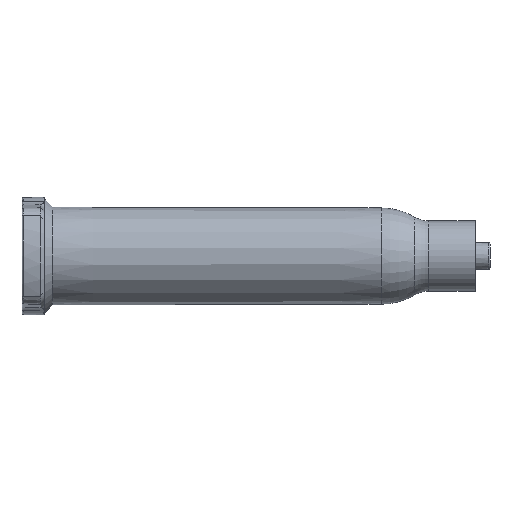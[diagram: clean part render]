
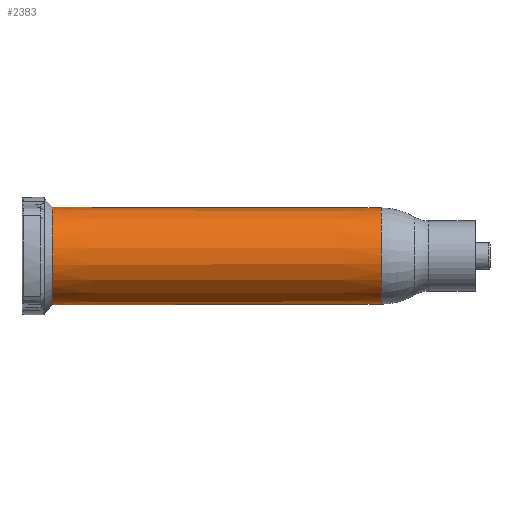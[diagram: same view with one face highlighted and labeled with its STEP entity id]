
A CAD part, front view. The second image highlights one B-rep face of the part: STEP entity #2383.
In plain terms, the highlighted conical face has half-angle 0.114 degrees and reference radius 7.2 mm.
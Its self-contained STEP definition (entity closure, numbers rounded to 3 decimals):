
#231 = VERTEX_POINT ( 'NONE', #6061 ) ;
#260 = CARTESIAN_POINT ( 'NONE',  ( 53.7, 0., 7.2 ) ) ;
#1181 = CONICAL_SURFACE ( 'NONE', #2481, 7.2, 0.002 ) ;
#1277 = EDGE_CURVE ( 'NONE', #6240, #231, #3408, .T. ) ;
#1372 = EDGE_CURVE ( 'NONE', #6240, #7874, #7481, .T. ) ;
#1400 = CARTESIAN_POINT ( 'NONE',  ( 4.55, 0., 0. ) ) ;
#1514 = DIRECTION ( 'NONE',  ( 0., 0., 1. ) ) ;
#1549 = CARTESIAN_POINT ( 'NONE',  ( 53.7, 0., 0. ) ) ;
#1910 = EDGE_LOOP ( 'NONE', ( #4191, #2910, #7539, #3398 ) ) ;
#1964 = VECTOR ( 'NONE', #6579, 1000. ) ;
#2106 = EDGE_CURVE ( 'NONE', #231, #5361, #3416, .T. ) ;
#2383 = ADVANCED_FACE ( 'NONE', ( #2556 ), #1181, .T. ) ;
#2481 = AXIS2_PLACEMENT_3D ( 'NONE', #6816, #6210, #6246 ) ;
#2530 = CIRCLE ( 'NONE', #4867, 7.298 ) ;
#2556 = FACE_OUTER_BOUND ( 'NONE', #1910, .T. ) ;
#2910 = ORIENTED_EDGE ( 'NONE', *, *, #1277, .T. ) ;
#3185 = DIRECTION ( 'NONE',  ( 0., 0., 1. ) ) ;
#3398 = ORIENTED_EDGE ( 'NONE', *, *, #3980, .F. ) ;
#3408 = CIRCLE ( 'NONE', #3661, 7.2 ) ;
#3416 = LINE ( 'NONE', #260, #1964 ) ;
#3661 = AXIS2_PLACEMENT_3D ( 'NONE', #1549, #7565, #1514 ) ;
#3980 = EDGE_CURVE ( 'NONE', #7874, #5361, #2530, .T. ) ;
#4065 = VECTOR ( 'NONE', #5005, 1000. ) ;
#4191 = ORIENTED_EDGE ( 'NONE', *, *, #1372, .F. ) ;
#4436 = CARTESIAN_POINT ( 'NONE',  ( 53.7, 0., -7.2 ) ) ;
#4867 = AXIS2_PLACEMENT_3D ( 'NONE', #1400, #6348, #3185 ) ;
#5005 = DIRECTION ( 'NONE',  ( -1., 0., -0.002 ) ) ;
#5361 = VERTEX_POINT ( 'NONE', #6323 ) ;
#6061 = CARTESIAN_POINT ( 'NONE',  ( 53.7, 0., 7.2 ) ) ;
#6210 = DIRECTION ( 'NONE',  ( -1., 0., 0. ) ) ;
#6240 = VERTEX_POINT ( 'NONE', #7466 ) ;
#6246 = DIRECTION ( 'NONE',  ( 0., 0., 1. ) ) ;
#6323 = CARTESIAN_POINT ( 'NONE',  ( 4.55, 0., 7.298 ) ) ;
#6348 = DIRECTION ( 'NONE',  ( -1., 0., 0. ) ) ;
#6579 = DIRECTION ( 'NONE',  ( -1., 0., 0.002 ) ) ;
#6816 = CARTESIAN_POINT ( 'NONE',  ( 53.7, 0., 0. ) ) ;
#7466 = CARTESIAN_POINT ( 'NONE',  ( 53.7, 0., -7.2 ) ) ;
#7481 = LINE ( 'NONE', #4436, #4065 ) ;
#7539 = ORIENTED_EDGE ( 'NONE', *, *, #2106, .T. ) ;
#7565 = DIRECTION ( 'NONE',  ( -1., 0., 0. ) ) ;
#7702 = CARTESIAN_POINT ( 'NONE',  ( 4.55, 0., -7.298 ) ) ;
#7874 = VERTEX_POINT ( 'NONE', #7702 ) ;
